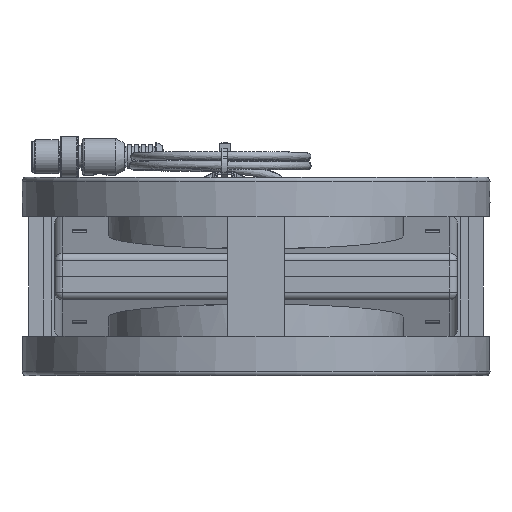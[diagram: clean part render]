
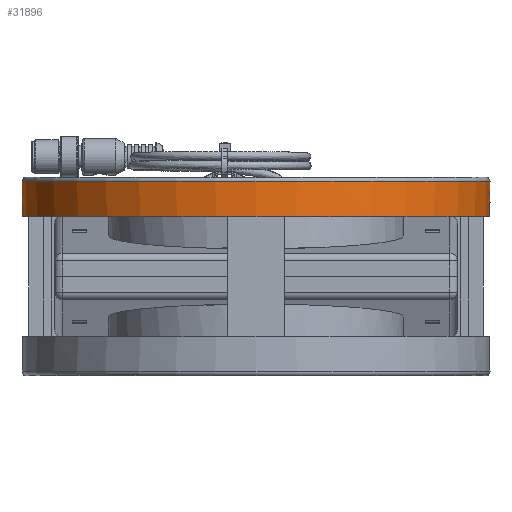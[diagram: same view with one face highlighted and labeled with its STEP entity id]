
A CAD part, front view. The second image highlights one B-rep face of the part: STEP entity #31896.
In plain terms, the highlighted cylindrical face has radius 82.4 mm (diameter 164.8 mm), a full revolution.
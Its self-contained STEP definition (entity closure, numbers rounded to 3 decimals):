
#4339=CIRCLE('',#90906,82.4);
#4340=CIRCLE('',#90907,82.4);
#4341=CIRCLE('',#90908,82.4);
#4342=CIRCLE('',#90910,82.4);
#31896=ADVANCED_FACE('',(#38158,#38159,#38160,#38161),#36489,.T.);
#36489=CYLINDRICAL_SURFACE('',#90913,82.4);
#38158=FACE_BOUND('',#39695,.T.);
#38159=FACE_BOUND('',#39696,.T.);
#38160=FACE_BOUND('',#39697,.T.);
#38161=FACE_BOUND('',#39698,.T.);
#39695=EDGE_LOOP('',(#47742,#47743,#47744));
#39696=EDGE_LOOP('',(#47745));
#39697=EDGE_LOOP('',(#47746,#47747));
#39698=EDGE_LOOP('',(#47748,#47749,#47750));
#47742=ORIENTED_EDGE('',*,*,#78905,.T.);
#47743=ORIENTED_EDGE('',*,*,#78906,.T.);
#47744=ORIENTED_EDGE('',*,*,#78907,.T.);
#47745=ORIENTED_EDGE('',*,*,#78908,.T.);
#47746=ORIENTED_EDGE('',*,*,#78909,.F.);
#47747=ORIENTED_EDGE('',*,*,#78910,.T.);
#47748=ORIENTED_EDGE('',*,*,#78911,.T.);
#47749=ORIENTED_EDGE('',*,*,#78912,.T.);
#47750=ORIENTED_EDGE('',*,*,#78913,.T.);
#70558=VERTEX_POINT('',#125588);
#70559=VERTEX_POINT('',#125589);
#70560=VERTEX_POINT('',#125591);
#70561=VERTEX_POINT('',#125594);
#70562=VERTEX_POINT('',#125596);
#70563=VERTEX_POINT('',#125597);
#70564=VERTEX_POINT('',#125600);
#70565=VERTEX_POINT('',#125601);
#70566=VERTEX_POINT('',#125603);
#78905=EDGE_CURVE('',#70558,#70559,#89819,.T.);
#78906=EDGE_CURVE('',#70559,#70560,#89820,.T.);
#78907=EDGE_CURVE('',#70560,#70558,#4339,.T.);
#78908=EDGE_CURVE('',#70561,#70561,#4340,.T.);
#78909=EDGE_CURVE('',#70562,#70563,#4341,.T.);
#78910=EDGE_CURVE('',#70562,#70563,#89821,.T.);
#78911=EDGE_CURVE('',#70564,#70565,#4342,.T.);
#78912=EDGE_CURVE('',#70565,#70566,#89822,.T.);
#78913=EDGE_CURVE('',#70566,#70564,#89823,.T.);
#89819=ELLIPSE('',#90904,164.8,82.4);
#89820=ELLIPSE('',#90905,164.8,82.4);
#89821=ELLIPSE('',#90909,82.715,82.4);
#89822=ELLIPSE('',#90911,164.8,82.4);
#89823=ELLIPSE('',#90912,164.8,82.4);
#90904=AXIS2_PLACEMENT_3D('',#125587,#101318,#101319);
#90905=AXIS2_PLACEMENT_3D('',#125590,#101320,#101321);
#90906=AXIS2_PLACEMENT_3D('',#125592,#101322,#101323);
#90907=AXIS2_PLACEMENT_3D('',#125593,#101324,#101325);
#90908=AXIS2_PLACEMENT_3D('',#125595,#101326,#101327);
#90909=AXIS2_PLACEMENT_3D('',#125598,#101328,#101329);
#90910=AXIS2_PLACEMENT_3D('',#125599,#101330,#101331);
#90911=AXIS2_PLACEMENT_3D('',#125602,#101332,#101333);
#90912=AXIS2_PLACEMENT_3D('',#125604,#101334,#101335);
#90913=AXIS2_PLACEMENT_3D('',#125605,#101336,#101337);
#101318=DIRECTION('',(0.5,0.866,0.));
#101319=DIRECTION('',(0.866,-0.5,0.));
#101320=DIRECTION('',(0.5,-0.866,0.));
#101321=DIRECTION('',(0.866,0.5,0.));
#101322=DIRECTION('',(-1.,0.,0.));
#101323=DIRECTION('',(0.,0.,-1.));
#101324=DIRECTION('',(1.,0.,0.));
#101325=DIRECTION('',(0.,1.,0.));
#101326=DIRECTION('',(1.,0.,0.));
#101327=DIRECTION('',(0.,1.,0.));
#101328=DIRECTION('',(-0.996,-0.087,0.));
#101329=DIRECTION('',(0.087,-0.996,0.));
#101330=DIRECTION('',(-1.,0.,0.));
#101331=DIRECTION('',(0.,0.,-1.));
#101332=DIRECTION('',(0.5,-0.866,0.));
#101333=DIRECTION('',(0.866,0.5,0.));
#101334=DIRECTION('',(0.5,0.866,0.));
#101335=DIRECTION('',(0.866,-0.5,0.));
#101336=DIRECTION('',(1.,0.,0.));
#101337=DIRECTION('',(0.,1.,0.));
#125587=CARTESIAN_POINT('',(-26.,0.,0.));
#125588=CARTESIAN_POINT('',(-30.,2.309,82.368));
#125589=CARTESIAN_POINT('',(-26.,0.,82.4));
#125590=CARTESIAN_POINT('',(-26.,0.,0.));
#125591=CARTESIAN_POINT('',(-30.,-2.309,82.368));
#125592=CARTESIAN_POINT('',(-30.,0.,0.));
#125593=CARTESIAN_POINT('',(-33.5,0.,0.));
#125594=CARTESIAN_POINT('',(-33.5,82.4,0.));
#125595=CARTESIAN_POINT('',(-21.,0.,0.));
#125596=CARTESIAN_POINT('',(-21.,76.47,30.692));
#125597=CARTESIAN_POINT('',(-21.,76.47,-30.692));
#125598=CARTESIAN_POINT('',(-14.31,0.,0.));
#125599=CARTESIAN_POINT('',(-30.,0.,0.));
#125600=CARTESIAN_POINT('',(-30.,2.309,-82.368));
#125601=CARTESIAN_POINT('',(-30.,-2.309,-82.368));
#125602=CARTESIAN_POINT('',(-26.,0.,0.));
#125603=CARTESIAN_POINT('',(-26.,0.,-82.4));
#125604=CARTESIAN_POINT('',(-26.,0.,0.));
#125605=CARTESIAN_POINT('',(-13.6,0.,0.));
